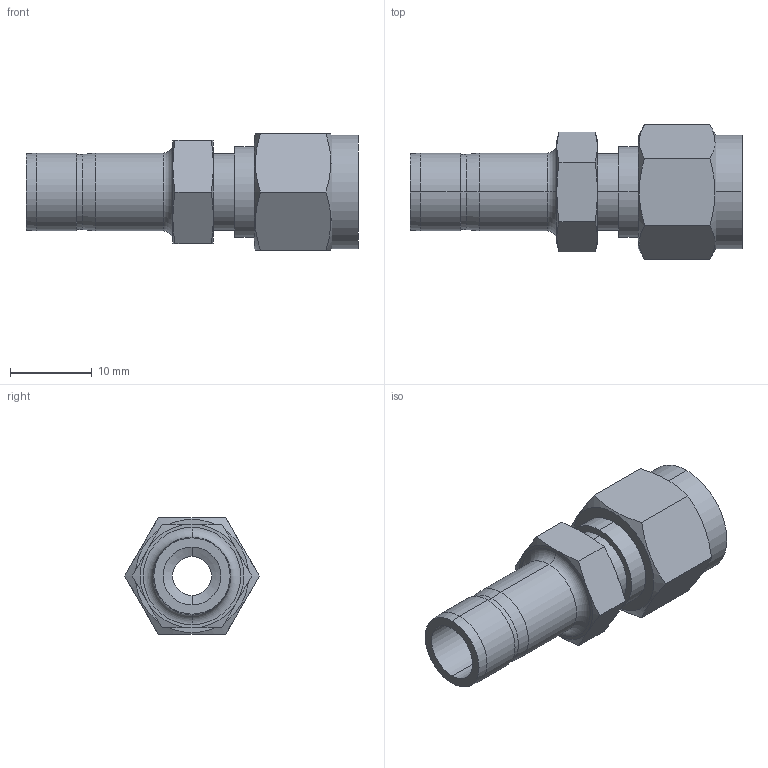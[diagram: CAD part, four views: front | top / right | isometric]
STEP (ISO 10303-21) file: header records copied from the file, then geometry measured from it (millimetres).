
FILE_DESCRIPTION (( 'STEP AP203' ), '1' );
FILE_NAME ('DRE04-06 SS.STEP', '2009-09-08T08:37:31', ( ' ' ), ( '' ), 'SwSTEP 2.0', 'SolidWorks 2008', '' );
FILE_SCHEMA (( 'CONFIG_CONTROL_DESIGN' ));
Length unit declared in the file: millimetre
Products named in the file (1): DRE04-06 SS
Bounding box: 40.7 x 16.5 x 14.29 mm (x, y, z)
Volume: 3190 mm3; surface area: 2759.1 mm2
Topology: 1 solids, 1 shells, 63 faces, 138 edges, 82 vertices
Faces by surface type: cone 24, plane 19, cylinder 18, torus 2
Entity records: 1917 total; most frequent: CARTESIAN_POINT 492, DIRECTION 282, ORIENTED_EDGE 276, EDGE_CURVE 138, AXIS2_PLACEMENT_3D 120, VERTEX_POINT 82, EDGE_LOOP 70, ADVANCED_FACE 63
